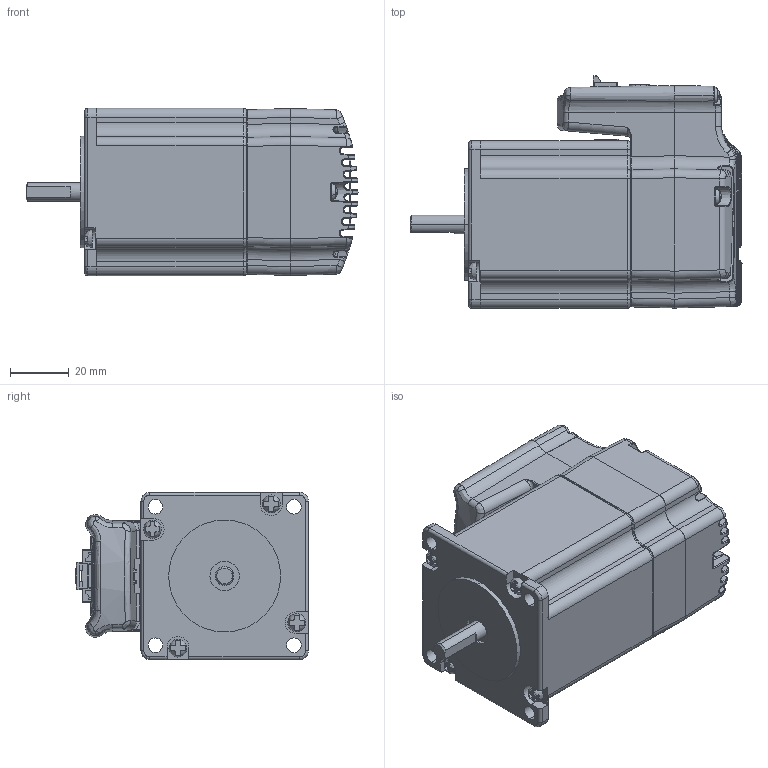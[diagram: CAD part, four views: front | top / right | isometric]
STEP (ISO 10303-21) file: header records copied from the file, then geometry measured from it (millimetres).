
FILE_DESCRIPTION (( 'STEP AP203' ), '1' );
FILE_NAME ('P26-MO-056-02-R00.STEP', '2015-04-15T07:19:03', ( '' ), ( '' ), 'SwSTEP 2.0', 'SolidWorks 2013', '' );
FILE_SCHEMA (( 'CONFIG_CONTROL_DESIGN' ));
Length unit declared in the file: millimetre
Products named in the file (20): 蝶嬪纂-2; 瞪錳薄樓醴喀攪-2; 匙飘况农 ID 钎矫 棺 惑怕 钎矫; 瞪錳薄樓醴喀攪-3; 烹脚加档 汲沥 胶困摹; 瞪錳薄樓醴喀攪-4; M15-EC-042-05-R00; round cross head screw_ks_KS 1023 RC - M3 x 20-N; 瞪錳薄樓醴喀攪-5; M15-EC-056-02-R00; M25-MO-056-02-R00(BM-56M-BT-01); RS-232C 鱔褐醴喀攪; M26-EC-056-01-R00; P26-MO-056-02-R00; ﾆﾞｽｺ ﾀﾔｷﾂ ｹ貎ﾄ ｼｳﾁ､ ｽｺﾀｧﾄ｡-1; M16-EC-042-01-R00; ﾆﾞｽｺ ﾀﾔｷﾂ ｹ貎ﾄ ｼｳﾁ､ ｽｺﾀｧﾄ｡-2; ﾀﾔﾃ箙ﾂ ﾁ｢ｼﾓ ﾄｿｳﾘﾅﾍ; 蝶嬪纂-1; 瞪錳薄樓醴喀攪-1
Assembly tree (24 placements, depth 2):
  P26-MO-056-02-R00
    M15-EC-042-05-R00
    M15-EC-056-02-R00
    M26-EC-056-01-R00
    M16-EC-042-01-R00
    ﾀﾔﾃ箙ﾂ ﾁ｢ｼﾓ ﾄｿｳﾘﾅﾍ
    瞪錳薄樓醴喀攪-1
    瞪錳薄樓醴喀攪-2
    瞪錳薄樓醴喀攪-3
    瞪錳薄樓醴喀攪-4
    瞪錳薄樓醴喀攪-5
    RS-232C 鱔褐醴喀攪  x2
    ﾆﾞｽｺ ﾀﾔｷﾂ ｹ貎ﾄ ｼｳﾁ､ ｽｺﾀｧﾄ｡-1
    ﾆﾞｽｺ ﾀﾔｷﾂ ｹ貎ﾄ ｼｳﾁ､ ｽｺﾀｧﾄ｡-2
    蝶嬪纂-1
    蝶嬪纂-2
    匙飘况农 ID 钎矫 棺 惑怕 钎矫
    烹脚加档 汲沥 胶困摹
    round cross head screw_ks_KS 1023 RC - M3 x 20-N  x5
    M25-MO-056-02-R00(BM-56M-BT-01)
Bounding box: 113 x 79.2 x 57 mm (x, y, z)
Volume: 209350.5 mm3; surface area: 63888.8 mm2
Topology: 26 solids, 28 shells, 2682 faces, 6994 edges, 4375 vertices
Faces by surface type: plane 1249, cylinder 832, bspline 489, cone 82, torus 20, sphere 10
Entity records: 122299 total; most frequent: CARTESIAN_POINT 66874, ORIENTED_EDGE 12588, DIRECTION 8469, EDGE_CURVE 6313, VERTEX_POINT 3984, LINE 3123, VECTOR 3123, AXIS2_PLACEMENT_3D 2673
